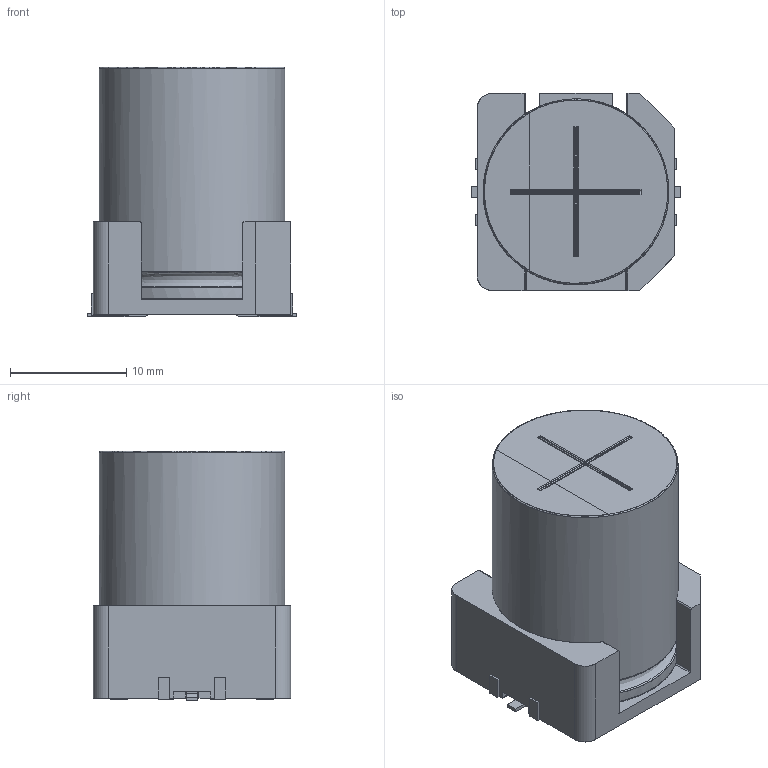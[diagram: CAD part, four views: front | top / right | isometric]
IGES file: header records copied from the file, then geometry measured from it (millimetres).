
Start section: JAMA-IS VERSION  1.0
Bounding box: 18 x 17 x 21.5 mm (x, y, z)
Surface area: 2817.3 mm2 (no closed solid volume)
Topology: 0 solids, 0 shells, 184 faces, 1575 edges, 1552 vertices
Faces by surface type: bspline 184
